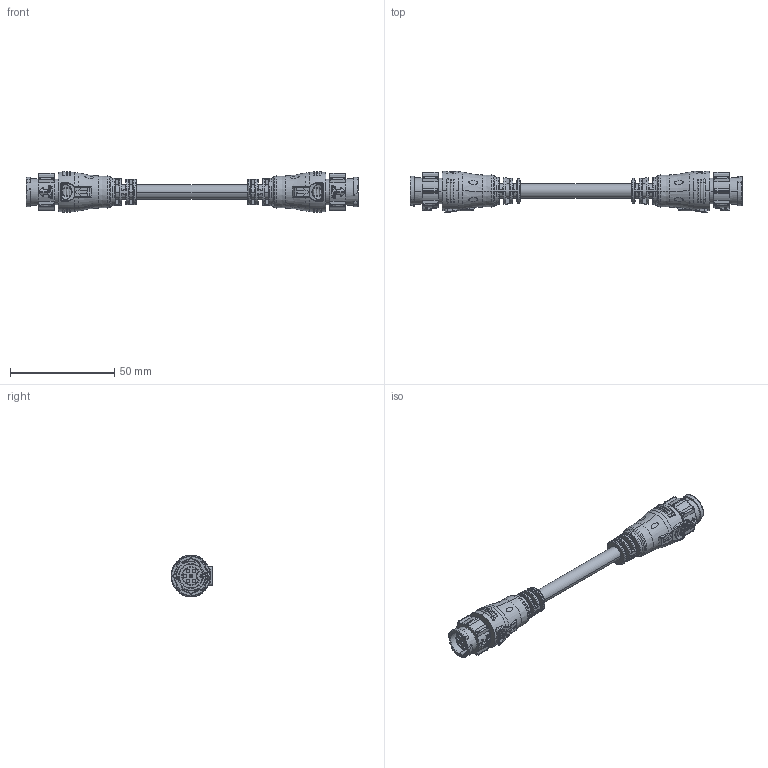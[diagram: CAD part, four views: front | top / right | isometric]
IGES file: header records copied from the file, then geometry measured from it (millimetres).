
Start section:  PTC IGES file: AB-BDXXHL-BDHL-QDXXX.igs
Global section: file name: AB-BDXXHL-BDHL-QDXXX.igs; native system: Creo Parametric by Parametric Technology Corporation; preprocessor: 2017170; author: L050004; organization: Unknown; date: 20200207.141104; units: millimetre
Bounding box: 159.6 x 20.07 x 20.09 mm (x, y, z)
Volume: 19826.5 mm3; surface area: 11693.8 mm2
Topology: 3 solids, 3 shells, 1316 faces, 3368 edges, 2134 vertices
Faces by surface type: bspline 662, revolution 506, extrusion 148
